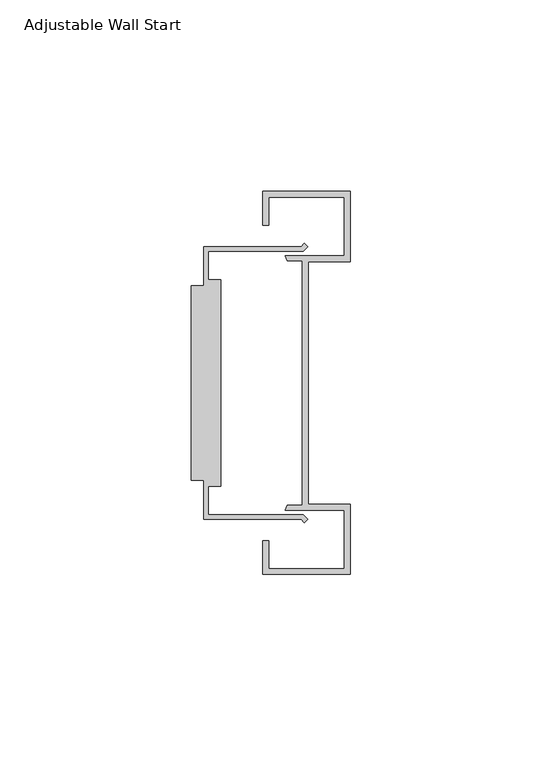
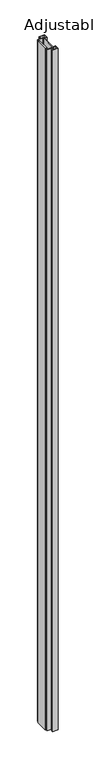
"""IFC4 building model written with IfcOpenShell, lengths in millimetres: proxy geometry, Connection-Wall_Start-Teknion-Optos-FXWS-R2021 : Adjustable Wall Start."""

from ifc_helpers import new_model, si_unit, origin, origin_with_axes, place, context, project, spatial, polyline, outline, extrude, source, transform, mapped, element, save


def adjustable_wall_start_faf12ad4(model_context):
    return source(origin(), model_context, "Body", "SweptSolid", [
        extrude(outline(polyline([(28.5950488, -35.6362), (3.1623, -35.6362), (3.1623, -25.3999997), (0.0, -25.3999997), (0.0, 25.3999997), (3.1623, 25.3999997), (3.1623, 35.6362), (28.5950488, 35.6362), (29.4930744, 36.5342256), (30.3911, 35.6362), (29.1211, 34.3662), (4.4323, 34.3662), (4.4323, 27.0002), (7.6073, 27.0002), (7.6073, -27.0002), (4.4323, -27.0002), (4.4323, -34.3662), (29.1211, -34.3662), (30.3911, -35.6362), (29.4930744, -36.5342256), (28.5950488, -35.6362)])), origin_with_axes(), (0.0, 0.0, 1.0), 3048.0),
        extrude(outline(polyline([(39.9288, 48.476), (20.1168, 48.476), (20.1168, 41.237), (18.5928, 41.237), (18.5928, 50.0), (41.4528, 50.0), (41.4528, 31.7136405), (30.4546, 31.7136405), (30.4546, -31.7119), (41.4528, -31.7119), (41.4528, -50.0), (18.5928, -50.0), (18.5928, -41.237), (20.1168, -41.237), (20.1168, -48.476), (39.9288, -48.476), (39.9288, -33.2359), (24.4610998, -33.2359), (24.987151, -31.9659), (28.8984432, -31.9659), (28.8984432, 31.9659), (24.987151, 31.9659), (24.4610998, 33.2359), (39.9288, 33.2359), (39.9288, 48.476)])), origin_with_axes(), (0.0, 0.0, 1.0), 3048.0),
    ])


if __name__ == "__main__":
    model = new_model("IFC4")
    model_context = context("Model", 3, world=origin())
    ifc_project = project(units=[si_unit("LENGTHUNIT", "METRE", prefix="MILLI")], contexts=[model_context])
    site = spatial("IfcSite", under=ifc_project)
    building = spatial("IfcBuilding", under=site)
    placement = place(None, origin())
    adjustable_wall_start_shape = adjustable_wall_start_faf12ad4(model_context)
    element("IfcBuildingElementProxy", 1, Name="Connection-Wall_Start-Teknion-Optos-FXWS-R2021 : Adjustable Wall Start", ObjectType="Connection-Wall_Start-Teknion-Optos-FXWS-R2021 : Adjustable Wall Start", at=placement, inside=building, context=model_context, shape_type="MappedRepresentation", body=[
        mapped(adjustable_wall_start_shape, transform((0.0, 0.0, 0.0), x_axis=(1.0, 0.0, 0.0), y_axis=(0.0, 1.0, 0.0), z_axis=(0.0, 0.0, 1.0))),
    ])
    save(model, "model.ifc")
